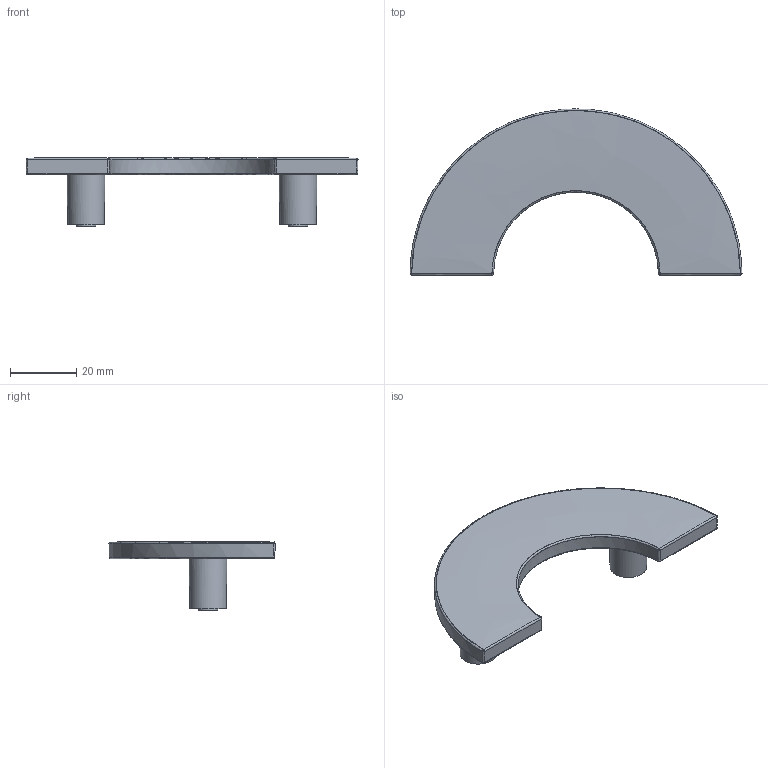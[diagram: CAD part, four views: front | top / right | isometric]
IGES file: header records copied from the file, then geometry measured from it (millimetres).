
Start section: C
Global section: file name: 8153 .igs; native system: By Siemens PLM Incorporated; preprocessor: XPlus GENERIC/IGES 16.0.42; author: Author; organization: Title; date: 20231120.134226; units: millimetre
Bounding box: 100.2 x 50.14 x 20.8 mm (x, y, z)
Surface area: 11362.1 mm2 (no closed solid volume)
Topology: 0 solids, 0 shells, 80 faces, 443 edges, 438 vertices
Faces by surface type: bspline 80
